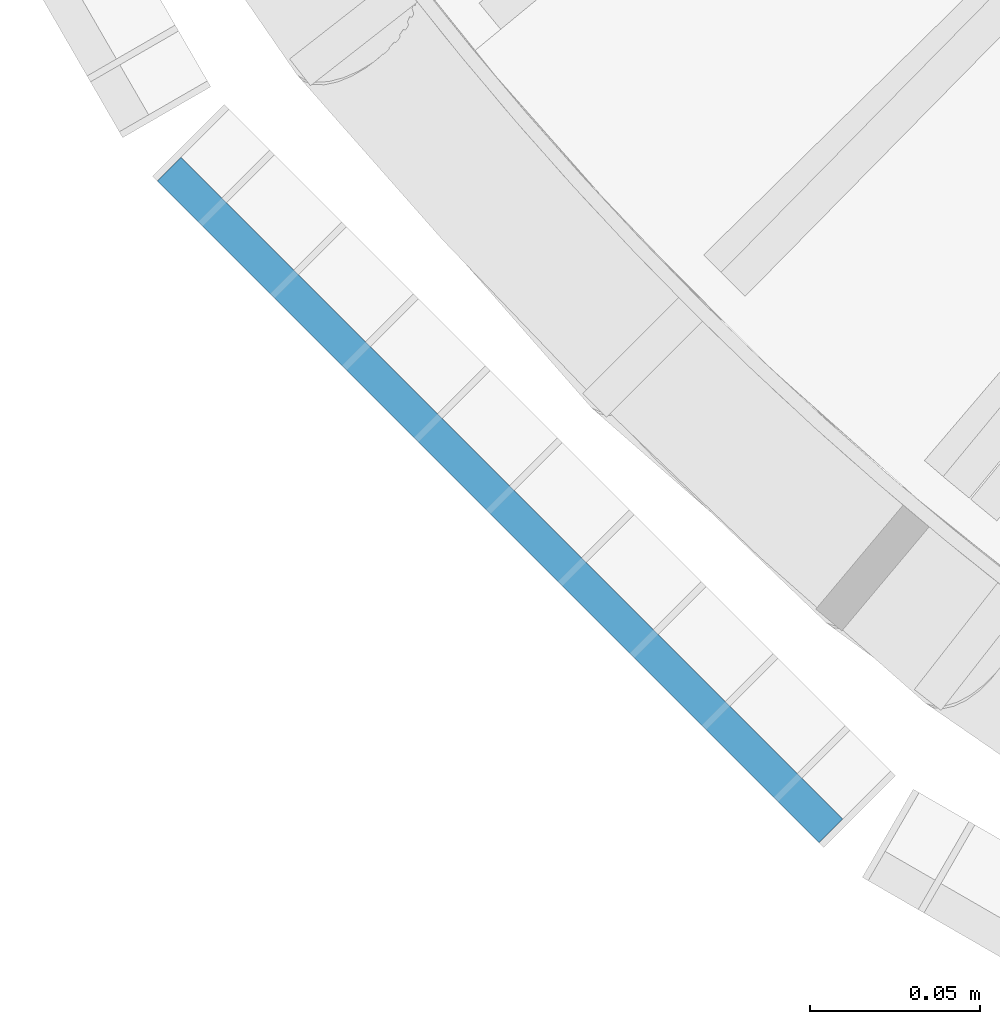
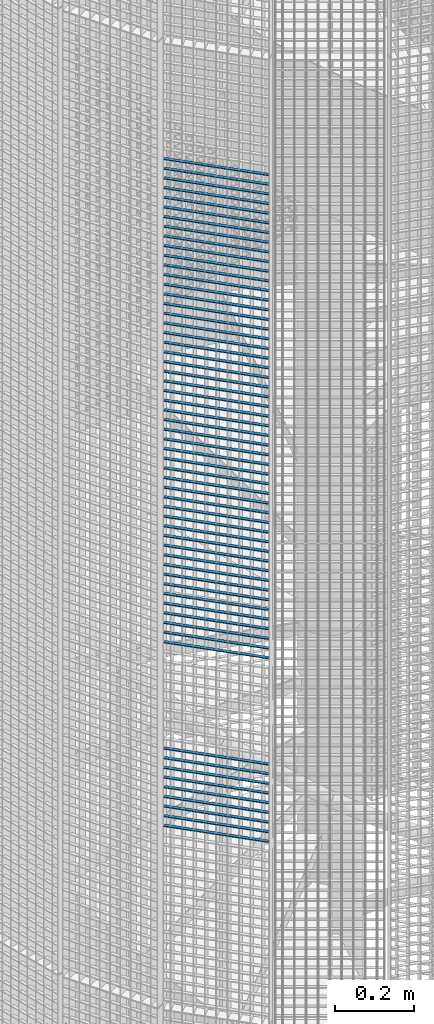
# One storey, part 352 of 1148: 60 beams, 1 element without a shape of its own.
"""IFC2X3 building model written with IfcOpenShell, lengths in millimetres."""

from ifc_helpers import new_model, si_unit, frame, origin_with_axes, origin_2d_with_axis, place, context, subcontext, project, spatial, rectangle, extrude, material, type_object, element, aggregate, save


model = new_model("IFC2X3")

# Units and contexts
model_context = context("Model", 3, precision=1e-05, world=origin_with_axes())
body_context = subcontext(model_context, "Body", "Model", "MODEL_VIEW")
ifc_project = project(units=[si_unit("LENGTHUNIT", "METRE", prefix="MILLI"), si_unit("AREAUNIT", "SQUARE_METRE"), si_unit("VOLUMEUNIT", "CUBIC_METRE"), si_unit("MASSUNIT", "GRAM", prefix="KILO"), si_unit("TIMEUNIT", "SECOND"), si_unit("PLANEANGLEUNIT", "RADIAN"), si_unit("SOLIDANGLEUNIT", "STERADIAN"), si_unit("THERMODYNAMICTEMPERATUREUNIT", "DEGREE_CELSIUS"), si_unit("LUMINOUSINTENSITYUNIT", "LUMEN")], contexts=[model_context])

# Site, building, storey
site_placement = place(None, origin_with_axes())
site = spatial("IfcSite", under=ifc_project, at=site_placement, Name="Undefined", CompositionType="ELEMENT")
building_placement = place(site_placement, origin_with_axes())
building = spatial("IfcBuilding", under=site, at=building_placement, Name="Undefined", CompositionType="ELEMENT")
storey_placement = place(building_placement, origin_with_axes())
storey = spatial("IfcBuildingStorey", under=building, at=storey_placement, Name="Undefined", CompositionType="ELEMENT", Elevation=0.0)

# Assembly, beams
assembly_placement = place(storey_placement, origin_with_axes())
assembly = element("IfcElementAssembly", 1, at=assembly_placement, inside=storey, Name="BORDURE", AssemblyPlace="NOTDEFINED", PredefinedType="NOTDEFINED")
ifc_material = material(Name="STEEL/S235JR")
beam_type = type_object("IfcBeamType", Name="PL2*10", PredefinedType="NOTDEFINED")
beam_1_placement = place(assembly_placement, frame((20910.2286510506, -884.927168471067, 8640.0), z_axis=(-0.70710678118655, -0.707106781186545, 0.0), x_axis=(-0.707106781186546, 0.707106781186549, 0.0)))
beam_1 = element("IfcBeam", 2, at=beam_1_placement, type_object=beam_type, material=ifc_material, Name="ENTRETOISE", context=body_context, shape_type="SweptSolid", body=[
    extrude(rectangle(XDim=2.0, YDim=10.0, at=origin_2d_with_axis()), frame((275.999999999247, 9.09494701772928e-13, 1.53210777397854e-14), z_axis=(-1.0, 0.0, 0.0), x_axis=(0.0, -1.0, 0.0)), (0.0, 0.0, 1.0), 276.0),
])
beam_2_placement = place(assembly_placement, frame((20910.2286510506, -884.927168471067, 8610.0), z_axis=(-0.70710678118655, -0.707106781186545, 0.0), x_axis=(-0.707106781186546, 0.707106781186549, 0.0)))
beam_2 = element("IfcBeam", 3, at=beam_2_placement, type_object=beam_type, material=ifc_material, Name="ENTRETOISE", context=body_context, shape_type="SweptSolid", body=[
    extrude(rectangle(XDim=2.0, YDim=10.0, at=origin_2d_with_axis()), frame((275.999999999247, 9.09494701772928e-13, 1.53210777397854e-14), z_axis=(-1.0, 0.0, 0.0), x_axis=(0.0, -1.0, 0.0)), (0.0, 0.0, 1.0), 276.0),
])
beam_3_placement = place(assembly_placement, frame((20910.2286510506, -884.927168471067, 8580.0), z_axis=(-0.70710678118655, -0.707106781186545, 0.0), x_axis=(-0.707106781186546, 0.707106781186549, 0.0)))
beam_3 = element("IfcBeam", 4, at=beam_3_placement, type_object=beam_type, material=ifc_material, Name="ENTRETOISE", context=body_context, shape_type="SweptSolid", body=[
    extrude(rectangle(XDim=2.0, YDim=10.0, at=origin_2d_with_axis()), frame((275.999999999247, 9.09494701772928e-13, 1.53210777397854e-14), z_axis=(-1.0, 0.0, 0.0), x_axis=(0.0, -1.0, 0.0)), (0.0, 0.0, 1.0), 276.0),
])
beam_4_placement = place(assembly_placement, frame((20910.2286510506, -884.927168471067, 8550.0), z_axis=(-0.70710678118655, -0.707106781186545, 0.0), x_axis=(-0.707106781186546, 0.707106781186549, 0.0)))
beam_4 = element("IfcBeam", 5, at=beam_4_placement, type_object=beam_type, material=ifc_material, Name="ENTRETOISE", context=body_context, shape_type="SweptSolid", body=[
    extrude(rectangle(XDim=2.0, YDim=10.0, at=origin_2d_with_axis()), frame((275.999999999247, 9.09494701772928e-13, 1.53210777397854e-14), z_axis=(-1.0, 0.0, 0.0), x_axis=(0.0, -1.0, 0.0)), (0.0, 0.0, 1.0), 276.0),
])
beam_5_placement = place(assembly_placement, frame((20910.2286510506, -884.927168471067, 8520.0), z_axis=(-0.70710678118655, -0.707106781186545, 0.0), x_axis=(-0.707106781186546, 0.707106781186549, 0.0)))
beam_5 = element("IfcBeam", 6, at=beam_5_placement, type_object=beam_type, material=ifc_material, Name="ENTRETOISE", context=body_context, shape_type="SweptSolid", body=[
    extrude(rectangle(XDim=2.0, YDim=10.0, at=origin_2d_with_axis()), frame((275.999999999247, 9.09494701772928e-13, 1.53210777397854e-14), z_axis=(-1.0, 0.0, 0.0), x_axis=(0.0, -1.0, 0.0)), (0.0, 0.0, 1.0), 276.0),
])
beam_6_placement = place(assembly_placement, frame((20910.2286510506, -884.927168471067, 8490.0), z_axis=(-0.70710678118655, -0.707106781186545, 0.0), x_axis=(-0.707106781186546, 0.707106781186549, 0.0)))
beam_6 = element("IfcBeam", 7, at=beam_6_placement, type_object=beam_type, material=ifc_material, Name="ENTRETOISE", context=body_context, shape_type="SweptSolid", body=[
    extrude(rectangle(XDim=2.0, YDim=10.0, at=origin_2d_with_axis()), frame((275.999999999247, 9.09494701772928e-13, 1.53210777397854e-14), z_axis=(-1.0, 0.0, 0.0), x_axis=(0.0, -1.0, 0.0)), (0.0, 0.0, 1.0), 276.0),
])
beam_7_placement = place(assembly_placement, frame((20910.2286510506, -884.927168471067, 8460.0), z_axis=(-0.70710678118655, -0.707106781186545, 0.0), x_axis=(-0.707106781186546, 0.707106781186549, 0.0)))
beam_7 = element("IfcBeam", 8, at=beam_7_placement, type_object=beam_type, material=ifc_material, Name="ENTRETOISE", context=body_context, shape_type="SweptSolid", body=[
    extrude(rectangle(XDim=2.0, YDim=10.0, at=origin_2d_with_axis()), frame((275.999999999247, 9.09494701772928e-13, 1.53210777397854e-14), z_axis=(-1.0, 0.0, 0.0), x_axis=(0.0, -1.0, 0.0)), (0.0, 0.0, 1.0), 276.0),
])
beam_8_placement = place(assembly_placement, frame((20910.2286510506, -884.927168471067, 8430.0), z_axis=(-0.70710678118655, -0.707106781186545, 0.0), x_axis=(-0.707106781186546, 0.707106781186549, 0.0)))
beam_8 = element("IfcBeam", 9, at=beam_8_placement, type_object=beam_type, material=ifc_material, Name="ENTRETOISE", context=body_context, shape_type="SweptSolid", body=[
    extrude(rectangle(XDim=2.0, YDim=10.0, at=origin_2d_with_axis()), frame((275.999999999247, 9.09494701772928e-13, 1.53210777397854e-14), z_axis=(-1.0, 0.0, 0.0), x_axis=(0.0, -1.0, 0.0)), (0.0, 0.0, 1.0), 276.0),
])
beam_9_placement = place(assembly_placement, frame((20910.2286510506, -884.927168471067, 8400.0), z_axis=(-0.70710678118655, -0.707106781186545, 0.0), x_axis=(-0.707106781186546, 0.707106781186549, 0.0)))
beam_9 = element("IfcBeam", 10, at=beam_9_placement, type_object=beam_type, material=ifc_material, Name="ENTRETOISE", context=body_context, shape_type="SweptSolid", body=[
    extrude(rectangle(XDim=2.0, YDim=10.0, at=origin_2d_with_axis()), frame((275.999999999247, 9.09494701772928e-13, 1.53210777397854e-14), z_axis=(-1.0, 0.0, 0.0), x_axis=(0.0, -1.0, 0.0)), (0.0, 0.0, 1.0), 276.0),
])
beam_10_placement = place(assembly_placement, frame((20910.2286510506, -884.927168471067, 8370.0), z_axis=(-0.70710678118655, -0.707106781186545, 0.0), x_axis=(-0.707106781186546, 0.707106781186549, 0.0)))
beam_10 = element("IfcBeam", 11, at=beam_10_placement, type_object=beam_type, material=ifc_material, Name="ENTRETOISE", context=body_context, shape_type="SweptSolid", body=[
    extrude(rectangle(XDim=2.0, YDim=10.0, at=origin_2d_with_axis()), frame((275.999999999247, 9.09494701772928e-13, 1.53210777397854e-14), z_axis=(-1.0, 0.0, 0.0), x_axis=(0.0, -1.0, 0.0)), (0.0, 0.0, 1.0), 276.0),
])
beam_11_placement = place(assembly_placement, frame((20910.2286510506, -884.927168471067, 8340.0), z_axis=(-0.70710678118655, -0.707106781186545, 0.0), x_axis=(-0.707106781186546, 0.707106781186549, 0.0)))
beam_11 = element("IfcBeam", 12, at=beam_11_placement, type_object=beam_type, material=ifc_material, Name="ENTRETOISE", context=body_context, shape_type="SweptSolid", body=[
    extrude(rectangle(XDim=2.0, YDim=10.0, at=origin_2d_with_axis()), frame((275.999999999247, 9.09494701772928e-13, 1.53210777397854e-14), z_axis=(-1.0, 0.0, 0.0), x_axis=(0.0, -1.0, 0.0)), (0.0, 0.0, 1.0), 276.0),
])
beam_12_placement = place(assembly_placement, frame((20910.2286510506, -884.927168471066, 8310.0), z_axis=(-0.70710678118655, -0.707106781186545, 0.0), x_axis=(-0.707106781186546, 0.707106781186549, 0.0)))
beam_12 = element("IfcBeam", 13, at=beam_12_placement, type_object=beam_type, material=ifc_material, Name="ENTRETOISE", context=body_context, shape_type="SweptSolid", body=[
    extrude(rectangle(XDim=2.0, YDim=10.0, at=origin_2d_with_axis()), frame((275.999999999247, 9.09494701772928e-13, 1.53210777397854e-14), z_axis=(-1.0, 0.0, 0.0), x_axis=(0.0, -1.0, 0.0)), (0.0, 0.0, 1.0), 276.0),
])
beam_13_placement = place(assembly_placement, frame((20910.2286510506, -884.927168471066, 8280.0), z_axis=(-0.70710678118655, -0.707106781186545, 0.0), x_axis=(-0.707106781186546, 0.707106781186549, 0.0)))
beam_13 = element("IfcBeam", 14, at=beam_13_placement, type_object=beam_type, material=ifc_material, Name="ENTRETOISE", context=body_context, shape_type="SweptSolid", body=[
    extrude(rectangle(XDim=2.0, YDim=10.0, at=origin_2d_with_axis()), frame((275.999999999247, 9.09494701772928e-13, 1.53210777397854e-14), z_axis=(-1.0, 0.0, 0.0), x_axis=(0.0, -1.0, 0.0)), (0.0, 0.0, 1.0), 276.0),
])
beam_14_placement = place(assembly_placement, frame((20910.2286510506, -884.927168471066, 8250.0), z_axis=(-0.70710678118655, -0.707106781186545, 0.0), x_axis=(-0.707106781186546, 0.707106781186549, 0.0)))
beam_14 = element("IfcBeam", 15, at=beam_14_placement, type_object=beam_type, material=ifc_material, Name="ENTRETOISE", context=body_context, shape_type="SweptSolid", body=[
    extrude(rectangle(XDim=2.0, YDim=10.0, at=origin_2d_with_axis()), frame((275.999999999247, 9.09494701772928e-13, 1.53210777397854e-14), z_axis=(-1.0, 0.0, 0.0), x_axis=(0.0, -1.0, 0.0)), (0.0, 0.0, 1.0), 276.0),
])
beam_15_placement = place(assembly_placement, frame((20910.2286510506, -884.927168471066, 8220.0), z_axis=(-0.70710678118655, -0.707106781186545, 0.0), x_axis=(-0.707106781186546, 0.707106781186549, 0.0)))
beam_15 = element("IfcBeam", 16, at=beam_15_placement, type_object=beam_type, material=ifc_material, Name="ENTRETOISE", context=body_context, shape_type="SweptSolid", body=[
    extrude(rectangle(XDim=2.0, YDim=10.0, at=origin_2d_with_axis()), frame((275.999999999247, 9.09494701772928e-13, 1.53210777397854e-14), z_axis=(-1.0, 0.0, 0.0), x_axis=(0.0, -1.0, 0.0)), (0.0, 0.0, 1.0), 276.0),
])
beam_16_placement = place(assembly_placement, frame((20910.2286510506, -884.927168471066, 8190.0), z_axis=(-0.70710678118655, -0.707106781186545, 0.0), x_axis=(-0.707106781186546, 0.707106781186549, 0.0)))
beam_16 = element("IfcBeam", 17, at=beam_16_placement, type_object=beam_type, material=ifc_material, Name="ENTRETOISE", context=body_context, shape_type="SweptSolid", body=[
    extrude(rectangle(XDim=2.0, YDim=10.0, at=origin_2d_with_axis()), frame((275.999999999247, 9.09494701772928e-13, 1.53210777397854e-14), z_axis=(-1.0, 0.0, 0.0), x_axis=(0.0, -1.0, 0.0)), (0.0, 0.0, 1.0), 276.0),
])
beam_17_placement = place(assembly_placement, frame((20910.2286510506, -884.927168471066, 8160.0), z_axis=(-0.70710678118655, -0.707106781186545, 0.0), x_axis=(-0.707106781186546, 0.707106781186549, 0.0)))
beam_17 = element("IfcBeam", 18, at=beam_17_placement, type_object=beam_type, material=ifc_material, Name="ENTRETOISE", context=body_context, shape_type="SweptSolid", body=[
    extrude(rectangle(XDim=2.0, YDim=10.0, at=origin_2d_with_axis()), frame((275.999999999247, 9.09494701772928e-13, 1.53210777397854e-14), z_axis=(-1.0, 0.0, 0.0), x_axis=(0.0, -1.0, 0.0)), (0.0, 0.0, 1.0), 276.0),
])
beam_18_placement = place(assembly_placement, frame((20910.2286510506, -884.927168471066, 8130.0), z_axis=(-0.70710678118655, -0.707106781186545, 0.0), x_axis=(-0.707106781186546, 0.707106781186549, 0.0)))
beam_18 = element("IfcBeam", 19, at=beam_18_placement, type_object=beam_type, material=ifc_material, Name="ENTRETOISE", context=body_context, shape_type="SweptSolid", body=[
    extrude(rectangle(XDim=2.0, YDim=10.0, at=origin_2d_with_axis()), frame((275.999999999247, 9.09494701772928e-13, 1.53210777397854e-14), z_axis=(-1.0, 0.0, 0.0), x_axis=(0.0, -1.0, 0.0)), (0.0, 0.0, 1.0), 276.0),
])
beam_19_placement = place(assembly_placement, frame((20910.2286510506, -884.927168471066, 8100.0), z_axis=(-0.70710678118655, -0.707106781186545, 0.0), x_axis=(-0.707106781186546, 0.707106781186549, 0.0)))
beam_19 = element("IfcBeam", 20, at=beam_19_placement, type_object=beam_type, material=ifc_material, Name="ENTRETOISE", context=body_context, shape_type="SweptSolid", body=[
    extrude(rectangle(XDim=2.0, YDim=10.0, at=origin_2d_with_axis()), frame((275.999999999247, 9.09494701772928e-13, 1.53210777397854e-14), z_axis=(-1.0, 0.0, 0.0), x_axis=(0.0, -1.0, 0.0)), (0.0, 0.0, 1.0), 276.0),
])
beam_20_placement = place(assembly_placement, frame((20910.2286510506, -884.927168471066, 8070.0), z_axis=(-0.70710678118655, -0.707106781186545, 0.0), x_axis=(-0.707106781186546, 0.707106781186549, 0.0)))
beam_20 = element("IfcBeam", 21, at=beam_20_placement, type_object=beam_type, material=ifc_material, Name="ENTRETOISE", context=body_context, shape_type="SweptSolid", body=[
    extrude(rectangle(XDim=2.0, YDim=10.0, at=origin_2d_with_axis()), frame((275.999999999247, 9.09494701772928e-13, 1.53210777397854e-14), z_axis=(-1.0, 0.0, 0.0), x_axis=(0.0, -1.0, 0.0)), (0.0, 0.0, 1.0), 276.0),
])
beam_21_placement = place(assembly_placement, frame((20910.2286510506, -884.927168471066, 8040.0), z_axis=(-0.70710678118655, -0.707106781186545, 0.0), x_axis=(-0.707106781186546, 0.707106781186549, 0.0)))
beam_21 = element("IfcBeam", 22, at=beam_21_placement, type_object=beam_type, material=ifc_material, Name="ENTRETOISE", context=body_context, shape_type="SweptSolid", body=[
    extrude(rectangle(XDim=2.0, YDim=10.0, at=origin_2d_with_axis()), frame((275.999999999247, 9.09494701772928e-13, 1.53210777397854e-14), z_axis=(-1.0, 0.0, 0.0), x_axis=(0.0, -1.0, 0.0)), (0.0, 0.0, 1.0), 276.0),
])
beam_22_placement = place(assembly_placement, frame((20910.2286510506, -884.927168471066, 8010.0), z_axis=(-0.70710678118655, -0.707106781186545, 0.0), x_axis=(-0.707106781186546, 0.707106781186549, 0.0)))
beam_22 = element("IfcBeam", 23, at=beam_22_placement, type_object=beam_type, material=ifc_material, Name="ENTRETOISE", context=body_context, shape_type="SweptSolid", body=[
    extrude(rectangle(XDim=2.0, YDim=10.0, at=origin_2d_with_axis()), frame((275.999999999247, 9.09494701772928e-13, 1.53210777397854e-14), z_axis=(-1.0, 0.0, 0.0), x_axis=(0.0, -1.0, 0.0)), (0.0, 0.0, 1.0), 276.0),
])
beam_23_placement = place(assembly_placement, frame((20910.2286510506, -884.927168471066, 7980.0), z_axis=(-0.70710678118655, -0.707106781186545, 0.0), x_axis=(-0.707106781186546, 0.707106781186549, 0.0)))
beam_23 = element("IfcBeam", 24, at=beam_23_placement, type_object=beam_type, material=ifc_material, Name="ENTRETOISE", context=body_context, shape_type="SweptSolid", body=[
    extrude(rectangle(XDim=2.0, YDim=10.0, at=origin_2d_with_axis()), frame((275.999999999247, 9.09494701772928e-13, 1.53210777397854e-14), z_axis=(-1.0, 0.0, 0.0), x_axis=(0.0, -1.0, 0.0)), (0.0, 0.0, 1.0), 276.0),
])
beam_24_placement = place(assembly_placement, frame((20910.2286510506, -884.927168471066, 7950.0), z_axis=(-0.70710678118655, -0.707106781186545, 0.0), x_axis=(-0.707106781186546, 0.707106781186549, 0.0)))
beam_24 = element("IfcBeam", 25, at=beam_24_placement, type_object=beam_type, material=ifc_material, Name="ENTRETOISE", context=body_context, shape_type="SweptSolid", body=[
    extrude(rectangle(XDim=2.0, YDim=10.0, at=origin_2d_with_axis()), frame((275.999999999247, 9.09494701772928e-13, 1.53210777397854e-14), z_axis=(-1.0, 0.0, 0.0), x_axis=(0.0, -1.0, 0.0)), (0.0, 0.0, 1.0), 276.0),
])
beam_25_placement = place(assembly_placement, frame((20910.2286510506, -884.927168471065, 7920.0), z_axis=(-0.70710678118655, -0.707106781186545, 0.0), x_axis=(-0.707106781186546, 0.707106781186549, 0.0)))
beam_25 = element("IfcBeam", 26, at=beam_25_placement, type_object=beam_type, material=ifc_material, Name="ENTRETOISE", context=body_context, shape_type="SweptSolid", body=[
    extrude(rectangle(XDim=2.0, YDim=10.0, at=origin_2d_with_axis()), frame((275.999999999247, 9.09494701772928e-13, 1.53210777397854e-14), z_axis=(-1.0, 0.0, 0.0), x_axis=(0.0, -1.0, 0.0)), (0.0, 0.0, 1.0), 276.0),
])
beam_26_placement = place(assembly_placement, frame((20910.2286510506, -884.927168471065, 7890.0), z_axis=(-0.70710678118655, -0.707106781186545, 0.0), x_axis=(-0.707106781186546, 0.707106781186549, 0.0)))
beam_26 = element("IfcBeam", 27, at=beam_26_placement, type_object=beam_type, material=ifc_material, Name="ENTRETOISE", context=body_context, shape_type="SweptSolid", body=[
    extrude(rectangle(XDim=2.0, YDim=10.0, at=origin_2d_with_axis()), frame((275.999999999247, 9.09494701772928e-13, 1.53210777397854e-14), z_axis=(-1.0, 0.0, 0.0), x_axis=(0.0, -1.0, 0.0)), (0.0, 0.0, 1.0), 276.0),
])
beam_27_placement = place(assembly_placement, frame((20910.2286510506, -884.927168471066, 7860.0), z_axis=(-0.70710678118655, -0.707106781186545, 0.0), x_axis=(-0.707106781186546, 0.707106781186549, 0.0)))
beam_27 = element("IfcBeam", 28, at=beam_27_placement, type_object=beam_type, material=ifc_material, Name="ENTRETOISE", context=body_context, shape_type="SweptSolid", body=[
    extrude(rectangle(XDim=2.0, YDim=10.0, at=origin_2d_with_axis()), frame((275.999999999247, 9.09494701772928e-13, 1.53210777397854e-14), z_axis=(-1.0, 0.0, 0.0), x_axis=(0.0, -1.0, 0.0)), (0.0, 0.0, 1.0), 276.0),
])
beam_28_placement = place(assembly_placement, frame((20910.2286510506, -884.927168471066, 7830.0), z_axis=(-0.70710678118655, -0.707106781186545, 0.0), x_axis=(-0.707106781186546, 0.707106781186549, 0.0)))
beam_28 = element("IfcBeam", 29, at=beam_28_placement, type_object=beam_type, material=ifc_material, Name="ENTRETOISE", context=body_context, shape_type="SweptSolid", body=[
    extrude(rectangle(XDim=2.0, YDim=10.0, at=origin_2d_with_axis()), frame((275.999999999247, 9.09494701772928e-13, 1.53210777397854e-14), z_axis=(-1.0, 0.0, 0.0), x_axis=(0.0, -1.0, 0.0)), (0.0, 0.0, 1.0), 276.0),
])
beam_29_placement = place(assembly_placement, frame((20910.2286510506, -884.927168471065, 7800.0), z_axis=(-0.70710678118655, -0.707106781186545, 0.0), x_axis=(-0.707106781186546, 0.707106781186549, 0.0)))
beam_29 = element("IfcBeam", 30, at=beam_29_placement, type_object=beam_type, material=ifc_material, Name="ENTRETOISE", context=body_context, shape_type="SweptSolid", body=[
    extrude(rectangle(XDim=2.0, YDim=10.0, at=origin_2d_with_axis()), frame((275.999999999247, 9.09494701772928e-13, 1.53210777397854e-14), z_axis=(-1.0, 0.0, 0.0), x_axis=(0.0, -1.0, 0.0)), (0.0, 0.0, 1.0), 276.0),
])
beam_30_placement = place(assembly_placement, frame((20910.2286510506, -884.927168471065, 7770.0), z_axis=(-0.70710678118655, -0.707106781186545, 0.0), x_axis=(-0.707106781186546, 0.707106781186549, 0.0)))
beam_30 = element("IfcBeam", 31, at=beam_30_placement, type_object=beam_type, material=ifc_material, Name="ENTRETOISE", context=body_context, shape_type="SweptSolid", body=[
    extrude(rectangle(XDim=2.0, YDim=10.0, at=origin_2d_with_axis()), frame((275.999999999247, 9.09494701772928e-13, 1.53210777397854e-14), z_axis=(-1.0, 0.0, 0.0), x_axis=(0.0, -1.0, 0.0)), (0.0, 0.0, 1.0), 276.0),
])
beam_31_placement = place(assembly_placement, frame((20910.2286510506, -884.927168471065, 7740.0), z_axis=(-0.70710678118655, -0.707106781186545, 0.0), x_axis=(-0.707106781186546, 0.707106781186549, 0.0)))
beam_31 = element("IfcBeam", 32, at=beam_31_placement, type_object=beam_type, material=ifc_material, Name="ENTRETOISE", context=body_context, shape_type="SweptSolid", body=[
    extrude(rectangle(XDim=2.0, YDim=10.0, at=origin_2d_with_axis()), frame((275.999999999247, 9.09494701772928e-13, 1.53210777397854e-14), z_axis=(-1.0, 0.0, 0.0), x_axis=(0.0, -1.0, 0.0)), (0.0, 0.0, 1.0), 276.0),
])
beam_32_placement = place(assembly_placement, frame((20910.2286510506, -884.927168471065, 7710.0), z_axis=(-0.70710678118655, -0.707106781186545, 0.0), x_axis=(-0.707106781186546, 0.707106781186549, 0.0)))
beam_32 = element("IfcBeam", 33, at=beam_32_placement, type_object=beam_type, material=ifc_material, Name="ENTRETOISE", context=body_context, shape_type="SweptSolid", body=[
    extrude(rectangle(XDim=2.0, YDim=10.0, at=origin_2d_with_axis()), frame((275.999999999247, 9.09494701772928e-13, 1.53210777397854e-14), z_axis=(-1.0, 0.0, 0.0), x_axis=(0.0, -1.0, 0.0)), (0.0, 0.0, 1.0), 276.0),
])
beam_33_placement = place(assembly_placement, frame((20910.2286510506, -884.927168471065, 7680.0), z_axis=(-0.70710678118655, -0.707106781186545, 0.0), x_axis=(-0.707106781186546, 0.707106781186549, 0.0)))
beam_33 = element("IfcBeam", 34, at=beam_33_placement, type_object=beam_type, material=ifc_material, Name="ENTRETOISE", context=body_context, shape_type="SweptSolid", body=[
    extrude(rectangle(XDim=2.0, YDim=10.0, at=origin_2d_with_axis()), frame((275.999999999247, 9.09494701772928e-13, 1.53210777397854e-14), z_axis=(-1.0, 0.0, 0.0), x_axis=(0.0, -1.0, 0.0)), (0.0, 0.0, 1.0), 276.0),
])
beam_34_placement = place(assembly_placement, frame((20910.2286510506, -884.927168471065, 7650.0), z_axis=(-0.70710678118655, -0.707106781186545, 0.0), x_axis=(-0.707106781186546, 0.707106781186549, 0.0)))
beam_34 = element("IfcBeam", 35, at=beam_34_placement, type_object=beam_type, material=ifc_material, Name="ENTRETOISE", context=body_context, shape_type="SweptSolid", body=[
    extrude(rectangle(XDim=2.0, YDim=10.0, at=origin_2d_with_axis()), frame((275.999999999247, 9.09494701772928e-13, 1.53210777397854e-14), z_axis=(-1.0, 0.0, 0.0), x_axis=(0.0, -1.0, 0.0)), (0.0, 0.0, 1.0), 276.0),
])
beam_35_placement = place(assembly_placement, frame((20910.2286510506, -884.927168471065, 7620.0), z_axis=(-0.70710678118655, -0.707106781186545, 0.0), x_axis=(-0.707106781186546, 0.707106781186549, 0.0)))
beam_35 = element("IfcBeam", 36, at=beam_35_placement, type_object=beam_type, material=ifc_material, Name="ENTRETOISE", context=body_context, shape_type="SweptSolid", body=[
    extrude(rectangle(XDim=2.0, YDim=10.0, at=origin_2d_with_axis()), frame((275.999999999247, 9.09494701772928e-13, 1.53210777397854e-14), z_axis=(-1.0, 0.0, 0.0), x_axis=(0.0, -1.0, 0.0)), (0.0, 0.0, 1.0), 276.0),
])
beam_36_placement = place(assembly_placement, frame((20910.2286510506, -884.927168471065, 7590.0), z_axis=(-0.70710678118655, -0.707106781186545, 0.0), x_axis=(-0.707106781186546, 0.707106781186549, 0.0)))
beam_36 = element("IfcBeam", 37, at=beam_36_placement, type_object=beam_type, material=ifc_material, Name="ENTRETOISE", context=body_context, shape_type="SweptSolid", body=[
    extrude(rectangle(XDim=2.0, YDim=10.0, at=origin_2d_with_axis()), frame((275.999999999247, 9.09494701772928e-13, 1.53210777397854e-14), z_axis=(-1.0, 0.0, 0.0), x_axis=(0.0, -1.0, 0.0)), (0.0, 0.0, 1.0), 276.0),
])
beam_37_placement = place(assembly_placement, frame((20910.2286510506, -884.927168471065, 7560.0), z_axis=(-0.70710678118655, -0.707106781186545, 0.0), x_axis=(-0.707106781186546, 0.707106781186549, 0.0)))
beam_37 = element("IfcBeam", 38, at=beam_37_placement, type_object=beam_type, material=ifc_material, Name="ENTRETOISE", context=body_context, shape_type="SweptSolid", body=[
    extrude(rectangle(XDim=2.0, YDim=10.0, at=origin_2d_with_axis()), frame((275.999999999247, 9.09494701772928e-13, 1.53210777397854e-14), z_axis=(-1.0, 0.0, 0.0), x_axis=(0.0, -1.0, 0.0)), (0.0, 0.0, 1.0), 276.0),
])
beam_38_placement = place(assembly_placement, frame((20910.2286510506, -884.927168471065, 7530.0), z_axis=(-0.70710678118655, -0.707106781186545, 0.0), x_axis=(-0.707106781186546, 0.707106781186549, 0.0)))
beam_38 = element("IfcBeam", 39, at=beam_38_placement, type_object=beam_type, material=ifc_material, Name="ENTRETOISE", context=body_context, shape_type="SweptSolid", body=[
    extrude(rectangle(XDim=2.0, YDim=10.0, at=origin_2d_with_axis()), frame((275.999999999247, 9.09494701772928e-13, 1.53210777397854e-14), z_axis=(-1.0, 0.0, 0.0), x_axis=(0.0, -1.0, 0.0)), (0.0, 0.0, 1.0), 276.0),
])
beam_39_placement = place(assembly_placement, frame((20910.2286510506, -884.927168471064, 7500.0), z_axis=(-0.70710678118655, -0.707106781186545, 0.0), x_axis=(-0.707106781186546, 0.707106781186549, 0.0)))
beam_39 = element("IfcBeam", 40, at=beam_39_placement, type_object=beam_type, material=ifc_material, Name="ENTRETOISE", context=body_context, shape_type="SweptSolid", body=[
    extrude(rectangle(XDim=2.0, YDim=10.0, at=origin_2d_with_axis()), frame((275.999999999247, 9.09494701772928e-13, 1.53210777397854e-14), z_axis=(-1.0, 0.0, 0.0), x_axis=(0.0, -1.0, 0.0)), (0.0, 0.0, 1.0), 276.0),
])
beam_40_placement = place(assembly_placement, frame((20910.2286510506, -884.927168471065, 7470.0), z_axis=(-0.70710678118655, -0.707106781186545, 0.0), x_axis=(-0.707106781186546, 0.707106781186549, 0.0)))
beam_40 = element("IfcBeam", 41, at=beam_40_placement, type_object=beam_type, material=ifc_material, Name="ENTRETOISE", context=body_context, shape_type="SweptSolid", body=[
    extrude(rectangle(XDim=2.0, YDim=10.0, at=origin_2d_with_axis()), frame((275.999999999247, 9.09494701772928e-13, 1.53210777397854e-14), z_axis=(-1.0, 0.0, 0.0), x_axis=(0.0, -1.0, 0.0)), (0.0, 0.0, 1.0), 276.0),
])
beam_41_placement = place(assembly_placement, frame((20910.2286510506, -884.927168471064, 7440.0), z_axis=(-0.70710678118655, -0.707106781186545, 0.0), x_axis=(-0.707106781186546, 0.707106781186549, 0.0)))
beam_41 = element("IfcBeam", 42, at=beam_41_placement, type_object=beam_type, material=ifc_material, Name="ENTRETOISE", context=body_context, shape_type="SweptSolid", body=[
    extrude(rectangle(XDim=2.0, YDim=10.0, at=origin_2d_with_axis()), frame((275.999999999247, 9.09494701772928e-13, 1.53210777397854e-14), z_axis=(-1.0, 0.0, 0.0), x_axis=(0.0, -1.0, 0.0)), (0.0, 0.0, 1.0), 276.0),
])
beam_42_placement = place(assembly_placement, frame((20910.2286510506, -884.927168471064, 7410.0), z_axis=(-0.70710678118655, -0.707106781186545, 0.0), x_axis=(-0.707106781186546, 0.707106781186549, 0.0)))
beam_42 = element("IfcBeam", 43, at=beam_42_placement, type_object=beam_type, material=ifc_material, Name="ENTRETOISE", context=body_context, shape_type="SweptSolid", body=[
    extrude(rectangle(XDim=2.0, YDim=10.0, at=origin_2d_with_axis()), frame((275.999999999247, 9.09494701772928e-13, 1.53210777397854e-14), z_axis=(-1.0, 0.0, 0.0), x_axis=(0.0, -1.0, 0.0)), (0.0, 0.0, 1.0), 276.0),
])
beam_43_placement = place(assembly_placement, frame((20910.2286510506, -884.927168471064, 7380.0), z_axis=(-0.70710678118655, -0.707106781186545, 0.0), x_axis=(-0.707106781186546, 0.707106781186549, 0.0)))
beam_43 = element("IfcBeam", 44, at=beam_43_placement, type_object=beam_type, material=ifc_material, Name="ENTRETOISE", context=body_context, shape_type="SweptSolid", body=[
    extrude(rectangle(XDim=2.0, YDim=10.0, at=origin_2d_with_axis()), frame((275.999999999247, 9.09494701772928e-13, 1.53210777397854e-14), z_axis=(-1.0, 0.0, 0.0), x_axis=(0.0, -1.0, 0.0)), (0.0, 0.0, 1.0), 276.0),
])
beam_44_placement = place(assembly_placement, frame((20910.2286510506, -884.927168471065, 7350.0), z_axis=(-0.70710678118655, -0.707106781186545, 0.0), x_axis=(-0.707106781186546, 0.707106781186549, 0.0)))
beam_44 = element("IfcBeam", 45, at=beam_44_placement, type_object=beam_type, material=ifc_material, Name="ENTRETOISE", context=body_context, shape_type="SweptSolid", body=[
    extrude(rectangle(XDim=2.0, YDim=10.0, at=origin_2d_with_axis()), frame((275.999999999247, 9.09494701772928e-13, 1.53210777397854e-14), z_axis=(-1.0, 0.0, 0.0), x_axis=(0.0, -1.0, 0.0)), (0.0, 0.0, 1.0), 276.0),
])
beam_45_placement = place(assembly_placement, frame((20910.2286510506, -884.927168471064, 7320.0), z_axis=(-0.70710678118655, -0.707106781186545, 0.0), x_axis=(-0.707106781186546, 0.707106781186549, 0.0)))
beam_45 = element("IfcBeam", 46, at=beam_45_placement, type_object=beam_type, material=ifc_material, Name="ENTRETOISE", context=body_context, shape_type="SweptSolid", body=[
    extrude(rectangle(XDim=2.0, YDim=10.0, at=origin_2d_with_axis()), frame((275.999999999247, 9.09494701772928e-13, 1.53210777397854e-14), z_axis=(-1.0, 0.0, 0.0), x_axis=(0.0, -1.0, 0.0)), (0.0, 0.0, 1.0), 276.0),
])
beam_46_placement = place(assembly_placement, frame((20910.2286510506, -884.927168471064, 7290.0), z_axis=(-0.70710678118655, -0.707106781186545, 0.0), x_axis=(-0.707106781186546, 0.707106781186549, 0.0)))
beam_46 = element("IfcBeam", 47, at=beam_46_placement, type_object=beam_type, material=ifc_material, Name="ENTRETOISE", context=body_context, shape_type="SweptSolid", body=[
    extrude(rectangle(XDim=2.0, YDim=10.0, at=origin_2d_with_axis()), frame((275.999999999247, 9.09494701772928e-13, 1.53210777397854e-14), z_axis=(-1.0, 0.0, 0.0), x_axis=(0.0, -1.0, 0.0)), (0.0, 0.0, 1.0), 276.0),
])
beam_47_placement = place(assembly_placement, frame((20910.2286510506, -884.927168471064, 7260.0), z_axis=(-0.70710678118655, -0.707106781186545, 0.0), x_axis=(-0.707106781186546, 0.707106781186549, 0.0)))
beam_47 = element("IfcBeam", 48, at=beam_47_placement, type_object=beam_type, material=ifc_material, Name="ENTRETOISE", context=body_context, shape_type="SweptSolid", body=[
    extrude(rectangle(XDim=2.0, YDim=10.0, at=origin_2d_with_axis()), frame((275.999999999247, 9.09494701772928e-13, 1.53210777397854e-14), z_axis=(-1.0, 0.0, 0.0), x_axis=(0.0, -1.0, 0.0)), (0.0, 0.0, 1.0), 276.0),
])
beam_48_placement = place(assembly_placement, frame((20910.2286510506, -884.927168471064, 7230.0), z_axis=(-0.70710678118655, -0.707106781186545, 0.0), x_axis=(-0.707106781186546, 0.707106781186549, 0.0)))
beam_48 = element("IfcBeam", 49, at=beam_48_placement, type_object=beam_type, material=ifc_material, Name="ENTRETOISE", context=body_context, shape_type="SweptSolid", body=[
    extrude(rectangle(XDim=2.0, YDim=10.0, at=origin_2d_with_axis()), frame((275.999999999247, 9.09494701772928e-13, 1.53210777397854e-14), z_axis=(-1.0, 0.0, 0.0), x_axis=(0.0, -1.0, 0.0)), (0.0, 0.0, 1.0), 276.0),
])
beam_49_placement = place(assembly_placement, frame((20910.2286510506, -884.927168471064, 7200.0), z_axis=(-0.70710678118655, -0.707106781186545, 0.0), x_axis=(-0.707106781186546, 0.707106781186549, 0.0)))
beam_49 = element("IfcBeam", 50, at=beam_49_placement, type_object=beam_type, material=ifc_material, Name="ENTRETOISE", context=body_context, shape_type="SweptSolid", body=[
    extrude(rectangle(XDim=2.0, YDim=10.0, at=origin_2d_with_axis()), frame((275.999999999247, 9.09494701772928e-13, 1.53210777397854e-14), z_axis=(-1.0, 0.0, 0.0), x_axis=(0.0, -1.0, 0.0)), (0.0, 0.0, 1.0), 276.0),
])
beam_50_placement = place(assembly_placement, frame((20910.2286510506, -884.927168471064, 7170.0), z_axis=(-0.70710678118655, -0.707106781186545, 0.0), x_axis=(-0.707106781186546, 0.707106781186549, 0.0)))
beam_50 = element("IfcBeam", 51, at=beam_50_placement, type_object=beam_type, material=ifc_material, Name="ENTRETOISE", context=body_context, shape_type="SweptSolid", body=[
    extrude(rectangle(XDim=2.0, YDim=10.0, at=origin_2d_with_axis()), frame((275.999999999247, 9.09494701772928e-13, 1.53210777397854e-14), z_axis=(-1.0, 0.0, 0.0), x_axis=(0.0, -1.0, 0.0)), (0.0, 0.0, 1.0), 276.0),
])
beam_51_placement = place(assembly_placement, frame((20910.2286510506, -884.927168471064, 7140.0), z_axis=(-0.70710678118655, -0.707106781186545, 0.0), x_axis=(-0.707106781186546, 0.707106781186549, 0.0)))
beam_51 = element("IfcBeam", 52, at=beam_51_placement, type_object=beam_type, material=ifc_material, Name="ENTRETOISE", context=body_context, shape_type="SweptSolid", body=[
    extrude(rectangle(XDim=2.0, YDim=10.0, at=origin_2d_with_axis()), frame((275.999999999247, 9.09494701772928e-13, 1.53210777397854e-14), z_axis=(-1.0, 0.0, 0.0), x_axis=(0.0, -1.0, 0.0)), (0.0, 0.0, 1.0), 276.0),
])
beam_52_placement = place(assembly_placement, frame((20910.2286510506, -884.927168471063, 6720.0), z_axis=(-0.70710678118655, -0.707106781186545, 0.0), x_axis=(-0.707106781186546, 0.707106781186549, 0.0)))
beam_52 = element("IfcBeam", 53, at=beam_52_placement, type_object=beam_type, material=ifc_material, Name="ENTRETOISE", context=body_context, shape_type="SweptSolid", body=[
    extrude(rectangle(XDim=2.0, YDim=10.0, at=origin_2d_with_axis()), frame((275.999999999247, 9.09494701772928e-13, 1.53210777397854e-14), z_axis=(-1.0, 0.0, 0.0), x_axis=(0.0, -1.0, 0.0)), (0.0, 0.0, 1.0), 276.0),
])
beam_53_placement = place(assembly_placement, frame((20910.2286510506, -884.927168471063, 6690.0), z_axis=(-0.70710678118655, -0.707106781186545, 0.0), x_axis=(-0.707106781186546, 0.707106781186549, 0.0)))
beam_53 = element("IfcBeam", 54, at=beam_53_placement, type_object=beam_type, material=ifc_material, Name="ENTRETOISE", context=body_context, shape_type="SweptSolid", body=[
    extrude(rectangle(XDim=2.0, YDim=10.0, at=origin_2d_with_axis()), frame((275.999999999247, 9.09494701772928e-13, 1.53210777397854e-14), z_axis=(-1.0, 0.0, 0.0), x_axis=(0.0, -1.0, 0.0)), (0.0, 0.0, 1.0), 276.0),
])
beam_54_placement = place(assembly_placement, frame((20910.2286510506, -884.927168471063, 6750.0), z_axis=(-0.70710678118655, -0.707106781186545, 0.0), x_axis=(-0.707106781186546, 0.707106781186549, 0.0)))
beam_54 = element("IfcBeam", 55, at=beam_54_placement, type_object=beam_type, material=ifc_material, Name="ENTRETOISE", context=body_context, shape_type="SweptSolid", body=[
    extrude(rectangle(XDim=2.0, YDim=10.0, at=origin_2d_with_axis()), frame((275.999999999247, 9.09494701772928e-13, 1.53210777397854e-14), z_axis=(-1.0, 0.0, 0.0), x_axis=(0.0, -1.0, 0.0)), (0.0, 0.0, 1.0), 276.0),
])
beam_55_placement = place(assembly_placement, frame((20910.2286510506, -884.927168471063, 6660.0), z_axis=(-0.70710678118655, -0.707106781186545, 0.0), x_axis=(-0.707106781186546, 0.707106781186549, 0.0)))
beam_55 = element("IfcBeam", 56, at=beam_55_placement, type_object=beam_type, material=ifc_material, Name="ENTRETOISE", context=body_context, shape_type="SweptSolid", body=[
    extrude(rectangle(XDim=2.0, YDim=10.0, at=origin_2d_with_axis()), frame((275.999999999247, 9.09494701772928e-13, 1.53210777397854e-14), z_axis=(-1.0, 0.0, 0.0), x_axis=(0.0, -1.0, 0.0)), (0.0, 0.0, 1.0), 276.0),
])
beam_56_placement = place(assembly_placement, frame((20910.2286510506, -884.927168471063, 6630.0), z_axis=(-0.70710678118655, -0.707106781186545, 0.0), x_axis=(-0.707106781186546, 0.707106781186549, 0.0)))
beam_56 = element("IfcBeam", 57, at=beam_56_placement, type_object=beam_type, material=ifc_material, Name="ENTRETOISE", context=body_context, shape_type="SweptSolid", body=[
    extrude(rectangle(XDim=2.0, YDim=10.0, at=origin_2d_with_axis()), frame((275.999999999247, 9.09494701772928e-13, 1.53210777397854e-14), z_axis=(-1.0, 0.0, 0.0), x_axis=(0.0, -1.0, 0.0)), (0.0, 0.0, 1.0), 276.0),
])
beam_57_placement = place(assembly_placement, frame((20910.2286510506, -884.927168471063, 6780.0), z_axis=(-0.70710678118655, -0.707106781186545, 0.0), x_axis=(-0.707106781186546, 0.707106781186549, 0.0)))
beam_57 = element("IfcBeam", 58, at=beam_57_placement, type_object=beam_type, material=ifc_material, Name="ENTRETOISE", context=body_context, shape_type="SweptSolid", body=[
    extrude(rectangle(XDim=2.0, YDim=10.0, at=origin_2d_with_axis()), frame((275.999999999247, 9.09494701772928e-13, 1.53210777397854e-14), z_axis=(-1.0, 0.0, 0.0), x_axis=(0.0, -1.0, 0.0)), (0.0, 0.0, 1.0), 276.0),
])
beam_58_placement = place(assembly_placement, frame((20910.2286510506, -884.927168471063, 6600.0), z_axis=(-0.70710678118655, -0.707106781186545, 0.0), x_axis=(-0.707106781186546, 0.707106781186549, 0.0)))
beam_58 = element("IfcBeam", 59, at=beam_58_placement, type_object=beam_type, material=ifc_material, Name="ENTRETOISE", context=body_context, shape_type="SweptSolid", body=[
    extrude(rectangle(XDim=2.0, YDim=10.0, at=origin_2d_with_axis()), frame((275.999999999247, 9.09494701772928e-13, 1.53210777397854e-14), z_axis=(-1.0, 0.0, 0.0), x_axis=(0.0, -1.0, 0.0)), (0.0, 0.0, 1.0), 276.0),
])
beam_59_placement = place(assembly_placement, frame((20910.2286510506, -884.927168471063, 6810.0), z_axis=(-0.70710678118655, -0.707106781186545, 0.0), x_axis=(-0.707106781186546, 0.707106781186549, 0.0)))
beam_59 = element("IfcBeam", 60, at=beam_59_placement, type_object=beam_type, material=ifc_material, Name="ENTRETOISE", context=body_context, shape_type="SweptSolid", body=[
    extrude(rectangle(XDim=2.0, YDim=10.0, at=origin_2d_with_axis()), frame((275.999999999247, 9.09494701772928e-13, 1.53210777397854e-14), z_axis=(-1.0, 0.0, 0.0), x_axis=(0.0, -1.0, 0.0)), (0.0, 0.0, 1.0), 276.0),
])
beam_60_placement = place(assembly_placement, frame((20910.2286510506, -884.927168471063, 6570.0), z_axis=(-0.70710678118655, -0.707106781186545, 0.0), x_axis=(-0.707106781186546, 0.707106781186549, 0.0)))
beam_60 = element("IfcBeam", 61, at=beam_60_placement, type_object=beam_type, material=ifc_material, Name="ENTRETOISE", context=body_context, shape_type="SweptSolid", body=[
    extrude(rectangle(XDim=2.0, YDim=10.0, at=origin_2d_with_axis()), frame((275.999999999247, 9.09494701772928e-13, 1.53210777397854e-14), z_axis=(-1.0, 0.0, 0.0), x_axis=(0.0, -1.0, 0.0)), (0.0, 0.0, 1.0), 276.0),
])
aggregate(assembly, [beam_1, beam_2, beam_3, beam_4, beam_5, beam_6, beam_7, beam_8, beam_9, beam_10, beam_11, beam_12, beam_13, beam_14, beam_15, beam_16, beam_17, beam_18, beam_19, beam_20, beam_21, beam_22, beam_23, beam_24, beam_25, beam_26, beam_27, beam_28, beam_29, beam_30, beam_31, beam_32, beam_33, beam_34, beam_35, beam_36, beam_37, beam_38, beam_39, beam_40, beam_41, beam_42, beam_43, beam_44, beam_45, beam_46, beam_47, beam_48, beam_49, beam_50, beam_51, beam_52, beam_53, beam_54, beam_55, beam_56, beam_57, beam_58, beam_59, beam_60])

save(model, "model.ifc")
